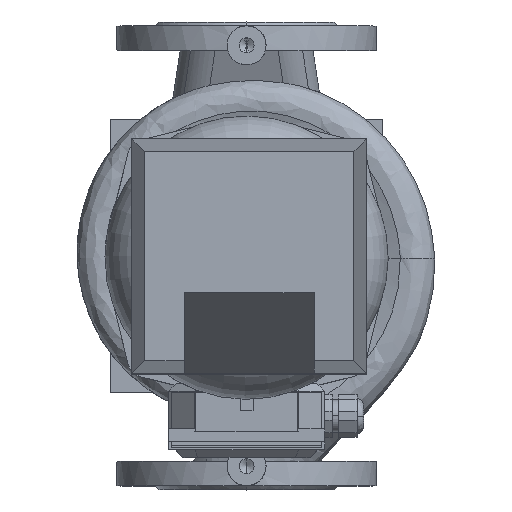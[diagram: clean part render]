
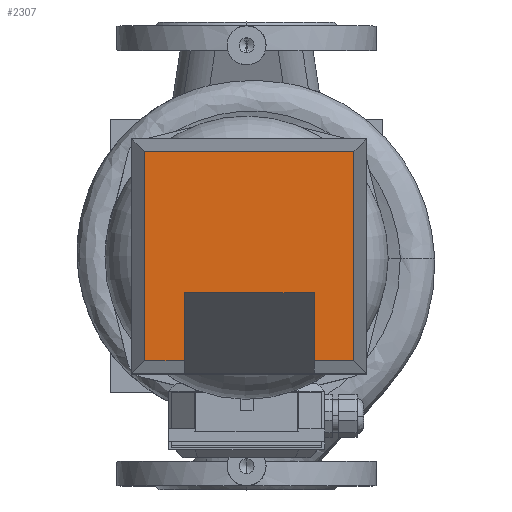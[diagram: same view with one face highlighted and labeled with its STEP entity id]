
A CAD part, top view. The second image highlights one B-rep face of the part: STEP entity #2307.
In plain terms, the highlighted planar face has unit normal (0, 0, 1) as drawn and (0, 1, 0) by its records, which use the part's own axes.
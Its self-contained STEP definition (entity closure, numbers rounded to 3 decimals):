
#2307=ADVANCED_FACE('',(#4389),#4390,.T.);
#2317=EDGE_CURVE('',#4402,#4405,#4406,.T.);
#4389=FACE_OUTER_BOUND('',#10798,.T.);
#4390=PLANE('',#10799);
#4402=VERTEX_POINT('',#10812);
#4405=VERTEX_POINT('',#10817);
#4406=LINE('',#10818,#10819);
#10798=EDGE_LOOP('',(#17565,#17566,#17567,#17568,#17569,#17570,#17571,#17572));
#10799=AXIS2_PLACEMENT_3D('',#17573,#17574,#17575);
#10812=CARTESIAN_POINT('',(50.0,114.0,118.64));
#10817=CARTESIAN_POINT('',(50.0,114.0,171.0));
#10818=CARTESIAN_POINT('',(50.0,114.0,90.179));
#10819=VECTOR('',#17601,1.0);
#17565=ORIENTED_EDGE('',*,*,#2317,.T.);
#17566=ORIENTED_EDGE('',*,*,#21887,.F.);
#17567=ORIENTED_EDGE('',*,*,#21895,.F.);
#17568=ORIENTED_EDGE('',*,*,#21897,.F.);
#17569=ORIENTED_EDGE('',*,*,#21889,.F.);
#17570=ORIENTED_EDGE('',*,*,#21883,.F.);
#17571=ORIENTED_EDGE('',*,*,#21876,.T.);
#17572=ORIENTED_EDGE('',*,*,#21879,.T.);
#17573=CARTESIAN_POINT('',(0.0,114.0,0.0));
#17574=DIRECTION('',(0.0,1.0,-0.0));
#17575=DIRECTION('',(-1.0,0.0,0.0));
#17601=DIRECTION('',(0.0,0.0,1.0));
#21876=EDGE_CURVE('',#35381,#35383,#35385,.T.);
#21879=EDGE_CURVE('',#35383,#4402,#35388,.T.);
#21883=EDGE_CURVE('',#35381,#35392,#35393,.T.);
#21887=EDGE_CURVE('',#35398,#4405,#35400,.T.);
#21889=EDGE_CURVE('',#35392,#35402,#35403,.T.);
#21895=EDGE_CURVE('',#35408,#35398,#35410,.T.);
#21897=EDGE_CURVE('',#35402,#35408,#35412,.T.);
#35381=VERTEX_POINT('',#43286);
#35383=VERTEX_POINT('',#43289);
#35385=LINE('',#43292,#43293);
#35388=LINE('',#43297,#43298);
#35392=VERTEX_POINT('',#43303);
#35393=LINE('',#43304,#43305);
#35398=VERTEX_POINT('',#43312);
#35400=LINE('',#43315,#43316);
#35402=VERTEX_POINT('',#43318);
#35403=LINE('',#43319,#43320);
#35408=VERTEX_POINT('',#43328);
#35410=LINE('',#43331,#43332);
#35412=LINE('',#43334,#43335);
#43286=CARTESIAN_POINT('',(-50.0,114.0,171.0));
#43289=CARTESIAN_POINT('',(-50.0,114.0,118.64));
#43292=CARTESIAN_POINT('',(-50.0,114.0,90.179));
#43293=VECTOR('',#50558,1.0);
#43297=CARTESIAN_POINT('',(25.0,114.0,118.64));
#43298=VECTOR('',#50560,1.0);
#43303=CARTESIAN_POINT('',(-80.5,114.0,171.0));
#43304=CARTESIAN_POINT('',(45.25,114.0,171.0));
#43305=VECTOR('',#50562,1.0);
#43312=CARTESIAN_POINT('',(80.5,114.0,171.0));
#43315=CARTESIAN_POINT('',(45.25,114.0,171.0));
#43316=VECTOR('',#50566,1.0);
#43318=CARTESIAN_POINT('',(-80.5,114.0,10.0));
#43319=CARTESIAN_POINT('',(-80.5,114.0,0.0));
#43320=VECTOR('',#50567,1.0);
#43328=CARTESIAN_POINT('',(80.5,114.0,10.0));
#43331=CARTESIAN_POINT('',(80.5,114.0,0.0));
#43332=VECTOR('',#50572,1.0);
#43334=CARTESIAN_POINT('',(45.25,114.0,10.0));
#43335=VECTOR('',#50573,1.0);
#50558=DIRECTION('',(-0.0,0.0,-1.0));
#50560=DIRECTION('',(1.0,-0.0,0.0));
#50562=DIRECTION('',(-1.0,0.0,-0.0));
#50566=DIRECTION('',(-1.0,0.0,-0.0));
#50567=DIRECTION('',(-0.0,-0.0,-1.0));
#50572=DIRECTION('',(-0.0,0.0,1.0));
#50573=DIRECTION('',(1.0,-0.0,-0.0));
